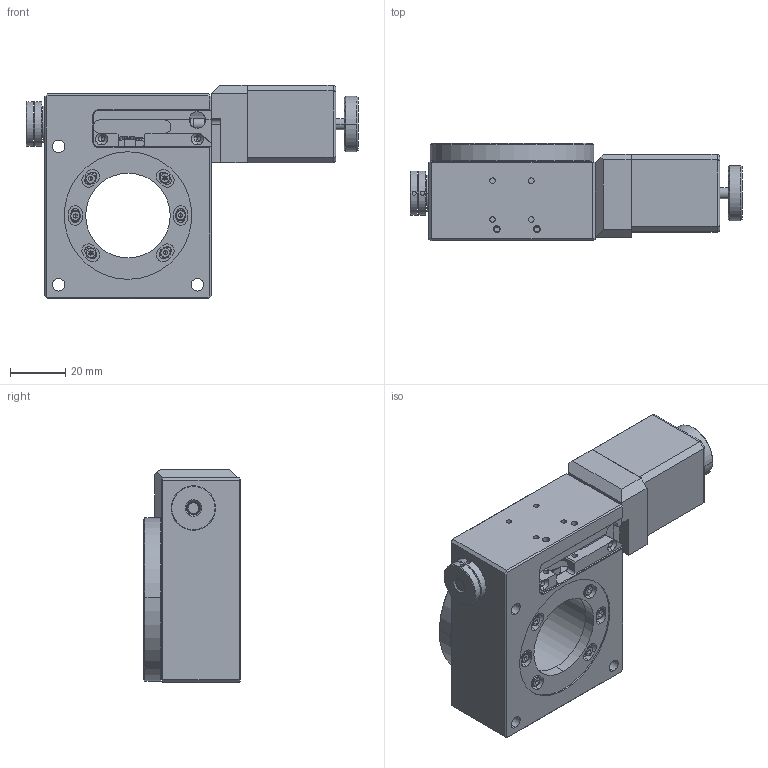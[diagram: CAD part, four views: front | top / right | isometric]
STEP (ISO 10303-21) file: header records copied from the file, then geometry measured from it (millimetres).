
FILE_DESCRIPTION (( 'STEP AP203' ), '1' );
FILE_NAME ('ER11-60-假蚾萇儂.STEP', '2020-02-26T03:18:37', ( 'PC' ), ( 'Microsoft' ), 'SwSTEP 2.0', 'SolidWorks 2016', '' );
FILE_SCHEMA (( 'CONFIG_CONTROL_DESIGN' ));
Length unit declared in the file: millimetre
Products named in the file (17): 楊擘晚粣創5-11; ER11-60-2-new; ER11-60-恘裝; ER11-60-恘謫-1; ER11-60-8; ER11-60-L; ER11-60-6; ER11-60-1; す醱粣創35-47-7; ER11-60-5; ER11-60-11; ER11-60-4; hexagon socket head cap screws gb_GB_FASTENER_SCREWS_HSHCS M2X6-C; ER11-60-9; 28步进电机，轴长5，法兰通孔; 楊擘晚粣創5-14; ER11-60-假蚾萇儂
Assembly tree (28 placements, depth 2):
  ER11-60-假蚾萇儂
    ER11-60-2-new
    ER11-60-恘謫-1
    ER11-60-L
    ER11-60-1
    ER11-60-5
    ER11-60-4
    ER11-60-9
    楊擘晚粣創5-14
    楊擘晚粣創5-11
    ER11-60-恘裝
    ER11-60-8  x3
    ER11-60-6
    す醱粣創35-47-7  x2
    ER11-60-11
    hexagon socket head cap screws gb_GB_FASTENER_SCREWS_HSHCS M2X6-C  x10
    28步进电机，轴长5，法兰通孔
Bounding box: 119.8 x 35 x 77 mm (x, y, z)
Volume: 130144.9 mm3; surface area: 74580.3 mm2
Topology: 29 solids, 29 shells, 1044 faces, 2528 edges, 1587 vertices
Faces by surface type: cylinder 480, plane 381, cone 127, torus 44, bspline 12
Entity records: 33696 total; most frequent: CARTESIAN_POINT 12870, DIRECTION 4069, ORIENTED_EDGE 3816, EDGE_CURVE 1908, AXIS2_PLACEMENT_3D 1609, VERTEX_POINT 1230, EDGE_LOOP 956, VECTOR 851
